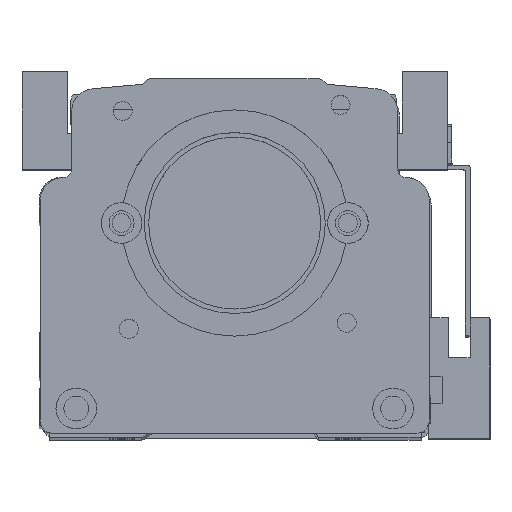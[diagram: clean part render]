
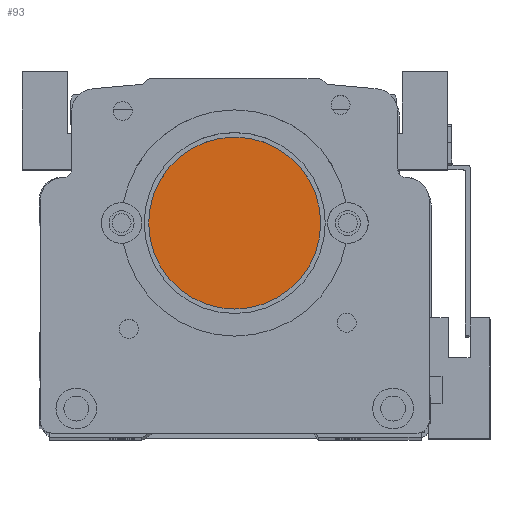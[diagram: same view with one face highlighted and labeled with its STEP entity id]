
A CAD part, top view. The second image highlights one B-rep face of the part: STEP entity #93.
In plain terms, the highlighted planar face has unit normal (0, 0, 1) as drawn and (0, 0, -1) by its records, which use the part's own axes.
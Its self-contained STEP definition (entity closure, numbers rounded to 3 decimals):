
#93 = ADVANCED_FACE ( 'NONE', ( #13410 ), #10932, .T. ) ;
#2058 = CARTESIAN_POINT ( 'NONE',  ( 11., 39., 5. ) ) ;
#3101 = EDGE_LOOP ( 'NONE', ( #20640, #11962 ) ) ;
#8538 = CARTESIAN_POINT ( 'NONE',  ( 49., 39., 5. ) ) ;
#8734 = DIRECTION ( 'NONE',  ( 0., 0., -1. ) ) ;
#9280 = AXIS2_PLACEMENT_3D ( 'NONE', #15703, #10863, #10890 ) ;
#9345 = CARTESIAN_POINT ( 'NONE',  ( 30., 39., 5. ) ) ;
#10218 = AXIS2_PLACEMENT_3D ( 'NONE', #9345, #20449, #10968 ) ;
#10636 = AXIS2_PLACEMENT_3D ( 'NONE', #18271, #8734, #19845 ) ;
#10863 = DIRECTION ( 'NONE',  ( 0., 0., -1. ) ) ;
#10890 = DIRECTION ( 'NONE',  ( -1., 0., 0. ) ) ;
#10932 = PLANE ( 'NONE',  #9280 ) ;
#10968 = DIRECTION ( 'NONE',  ( -1., 0., 0. ) ) ;
#11397 = EDGE_CURVE ( 'NONE', #19799, #20388, #13886, .T. ) ;
#11666 = EDGE_CURVE ( 'NONE', #20388, #19799, #12926, .T. ) ;
#11962 = ORIENTED_EDGE ( 'NONE', *, *, #11397, .T. ) ;
#12926 = CIRCLE ( 'NONE', #10218, 19. ) ;
#13410 = FACE_OUTER_BOUND ( 'NONE', #3101, .T. ) ;
#13886 = CIRCLE ( 'NONE', #10636, 19. ) ;
#15703 = CARTESIAN_POINT ( 'NONE',  ( 30., 39., 5. ) ) ;
#18271 = CARTESIAN_POINT ( 'NONE',  ( 30., 39., 5. ) ) ;
#19799 = VERTEX_POINT ( 'NONE', #8538 ) ;
#19845 = DIRECTION ( 'NONE',  ( -1., 0., 0. ) ) ;
#20388 = VERTEX_POINT ( 'NONE', #2058 ) ;
#20449 = DIRECTION ( 'NONE',  ( 0., 0., -1. ) ) ;
#20640 = ORIENTED_EDGE ( 'NONE', *, *, #11666, .T. ) ;
